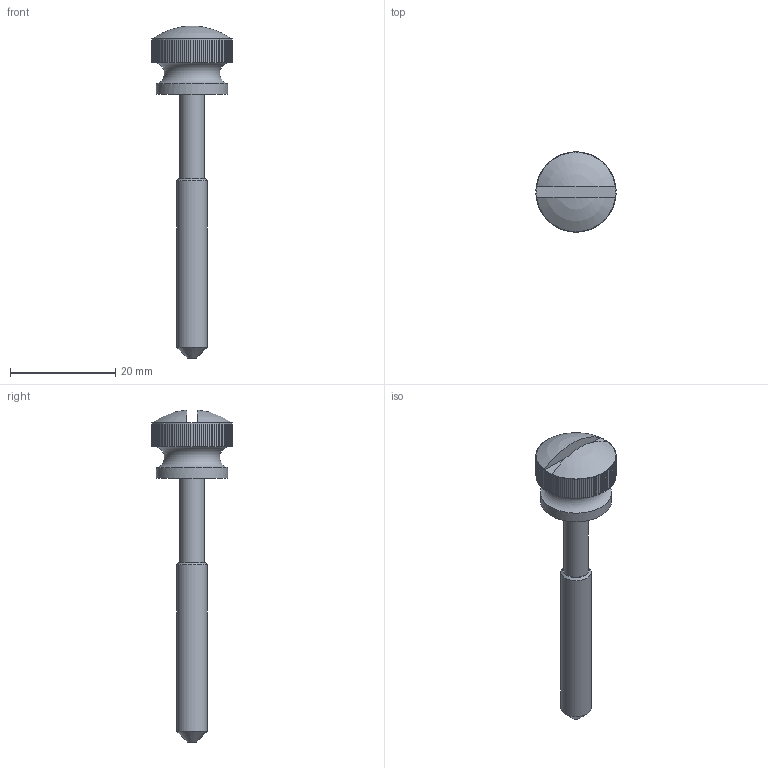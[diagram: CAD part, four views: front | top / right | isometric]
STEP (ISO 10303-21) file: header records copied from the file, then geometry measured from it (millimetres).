
FILE_DESCRIPTION(/* description */ (''),/* implementation_level */ '2;1');
FILE_NAME(/* name */ '\\SYNOLOGYNAS\web\db2\K-HSH15-M5_M\도면\M6\K-HSH15-M6-50.stp',/* time_stamp */ '2024-10-14T14:12:21+09:00',/* author */ ('user'),/* organization */ (''),/* preprocessor_version */ 'ST-DEVELOPER v15.6',/* originating_system */ 'Autodesk Inventor 2015',/* authorisation */ '');
FILE_SCHEMA (('AUTOMOTIVE_DESIGN { 1 0 10303 214 3 1 1 }'));
Length unit declared in the file: millimetre
Products named in the file (1): K-HSH15-M6-50
Bounding box: 15.19 x 15.2 x 62.96 mm (x, y, z)
Volume: 2826.4 mm3; surface area: 1818.9 mm2
Topology: 1 solids, 1 shells, 308 faces, 798 edges, 494 vertices
Faces by surface type: plane 240, cylinder 63, cone 2, sphere 2, torus 1
Full cylindrical faces by diameter (mm): 4.7 x1, 5.8 x1, 13.5 x1
Entity records: 9514 total; most frequent: CARTESIAN_POINT 2251, ORIENTED_EDGE 1580, DIRECTION 1416, EDGE_CURVE 790, AXIS2_PLACEMENT_3D 497, VERTEX_POINT 492, LINE 422, VECTOR 422
